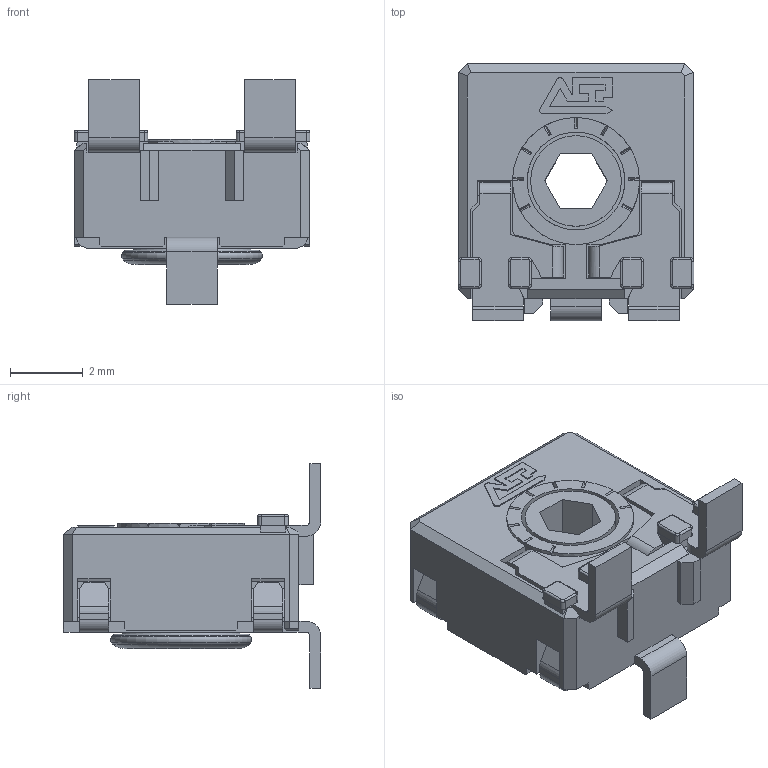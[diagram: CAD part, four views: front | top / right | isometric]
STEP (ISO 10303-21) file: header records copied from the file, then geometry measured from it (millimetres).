
FILE_DESCRIPTION(/* description */ (''),/* implementation_level */ '2;1');
FILE_NAME(/* name */ 'C:\Users\CEM\Desktop\ENVIAR\TRANSICION 3D CATALOGOS\COMCA6MHSMD.stp',/* time_stamp */ '2026-03-20T08:32:31+01:00',/* author */ ('CEM'),/* organization */ (''),/* preprocessor_version */ 'ST-DEVELOPER v16.13',/* originating_system */ 'Autodesk Inventor 2018',/* authorisation */ '');
FILE_SCHEMA (('AUTOMOTIVE_DESIGN { 1 0 10303 214 3 1 1 }'));
Length unit declared in the file: millimetre
Products named in the file (1): CARCASA CA6
Bounding box: 6.5 x 7.1 x 6.2 mm (x, y, z)
Volume: 88.5 mm3; surface area: 364.6 mm2
Topology: 1 solids, 1 shells, 504 faces, 1397 edges, 892 vertices
Faces by surface type: plane 385, cylinder 80, cone 17, bspline 16, torus 6
Full cylindrical faces by diameter (mm): 2.5 x1, 2.7 x1, 2.9 x1, 3.1 x1, 3.5 x1
Entity records: 16014 total; most frequent: CARTESIAN_POINT 2953, ORIENTED_EDGE 2760, DIRECTION 2576, EDGE_CURVE 1379, LINE 1108, VECTOR 1108, VERTEX_POINT 889, AXIS2_PLACEMENT_3D 734
